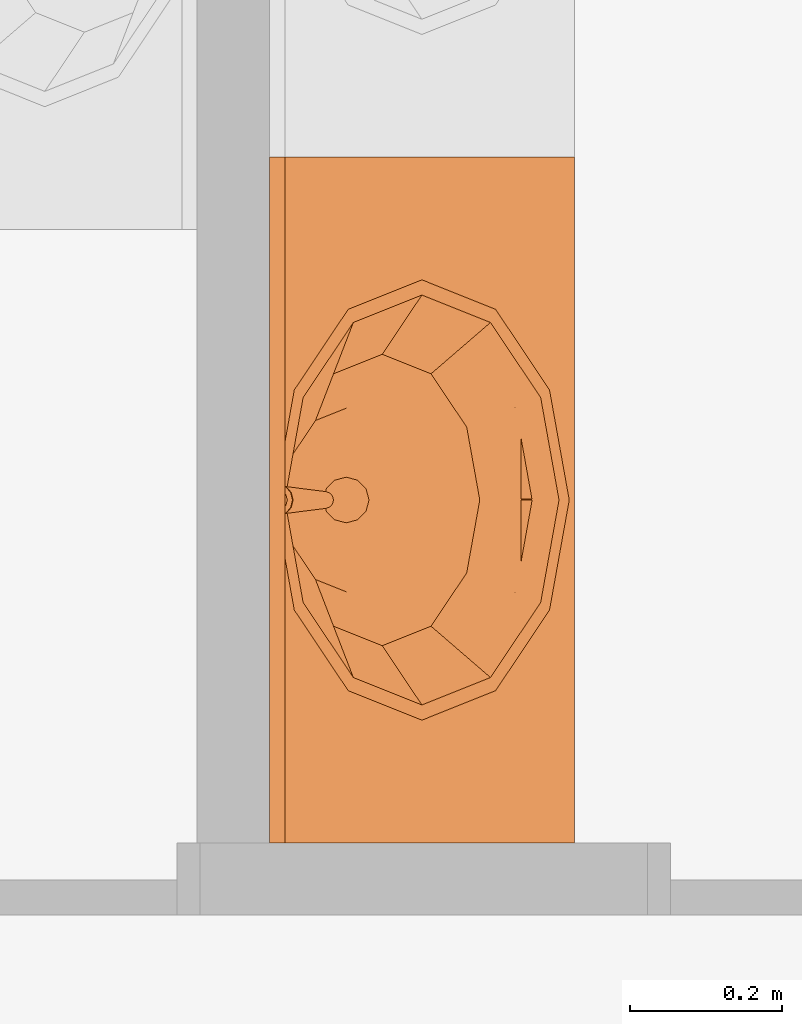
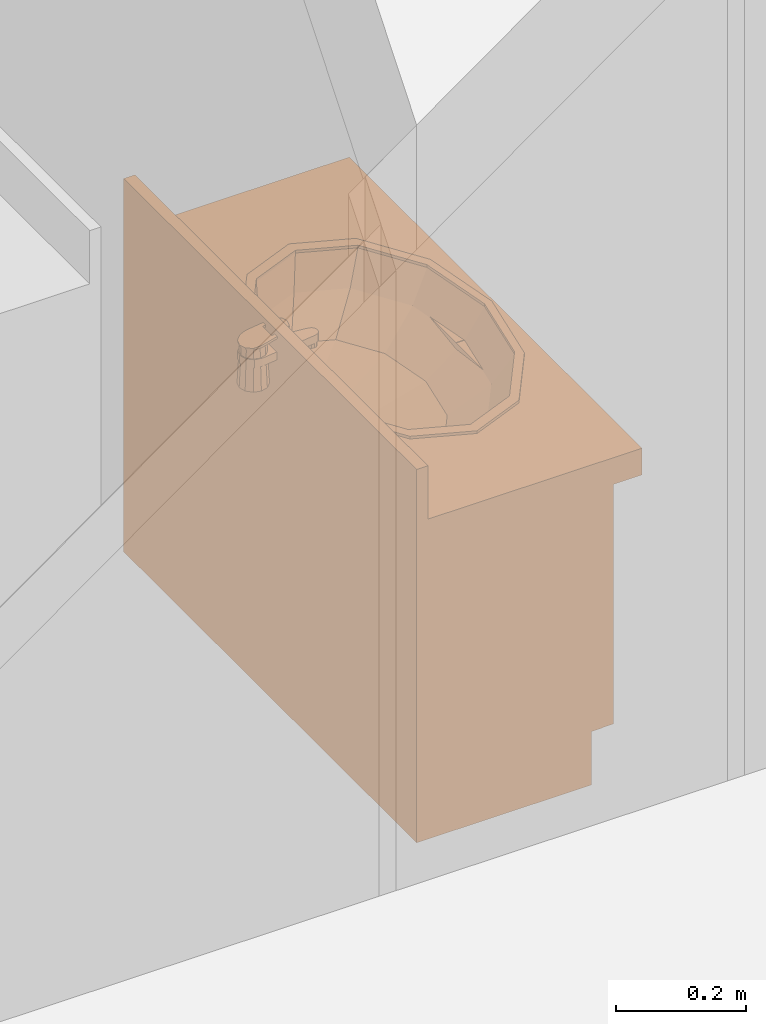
# One storey, part 14 of 17: 1 proxy.
"""IFC2X3 building model written with IfcOpenShell, lengths in millimetres."""

from ifc_helpers import new_model, entity, si_unit, converted_unit, direction, frame, origin_with_axes, place, context, project, spatial, open_shell, faceted_brep, surface_model, material, element, save


model = new_model("IFC2X3")

# Units and contexts
model_context = context("Model", 3, precision=1e-05, world=origin_with_axes(), true_north=direction((0.0, 1.0)))
ifc_project = project(units=[si_unit("LENGTHUNIT", "METRE", prefix="MILLI"), si_unit("AREAUNIT", "SQUARE_METRE"), si_unit("VOLUMEUNIT", "CUBIC_METRE"), converted_unit("PLANEANGLEUNIT", "DEGREE", entity("IfcPlaneAngleMeasure", 0.017453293), si_unit("PLANEANGLEUNIT", "RADIAN"), dimensions=[0, 0, 0, 0, 0, 0, 0]), si_unit("SOLIDANGLEUNIT", "STERADIAN"), si_unit("MASSUNIT", "GRAM"), si_unit("TIMEUNIT", "SECOND"), si_unit("THERMODYNAMICTEMPERATUREUNIT", "DEGREE_CELSIUS"), si_unit("LUMINOUSINTENSITYUNIT", "LUMEN")], contexts=[model_context])

# Site, building, storey
site_placement = place(None, origin_with_axes())
site = spatial("IfcSite", under=ifc_project, at=site_placement, Name="\x83T\x83C\x83g", CompositionType="ELEMENT")
building_placement = place(site_placement, origin_with_axes())
building = spatial("IfcBuilding", under=site, at=building_placement, Name="Daitec-Sample 201208", CompositionType="ELEMENT")
storey_placement = place(building_placement, origin_with_axes())
storey = spatial("IfcBuildingStorey", under=building, at=storey_placement, Name="1F", CompositionType="ELEMENT", Elevation=0.0)

# Proxy
ifc_material = material(Name="\x94w\x8ci")
proxy_placement = place(storey_placement, frame((21445.071, 21395.126, 0.0), z_axis=(0.0, 0.0, 1.0), x_axis=(0.0, 1.0, 0.0)))
element("IfcBuildingElementProxy", 1, at=proxy_placement, inside=storey, material=ifc_material, Name="O2", context=model_context, shape_type="Brep", body=[
    faceted_brep([(0.0, 90.0, 0.0), (0.0, 90.0, 100.0), (-900.0, 90.0, 100.0), (-900.0, 90.0, 0.0), (0.0, 400.0, 0.0), (0.0, 400.0, 100.0), (-900.0, 400.0, 100.0), (-900.0, 400.0, 0.0)], [[[0, 1, 2, 3]], [[4, 5, 1, 0]], [[1, 5, 6, 2]], [[3, 2, 6, 7]], [[0, 3, 7, 4]], [[7, 6, 5, 4]]]),
    faceted_brep([(0.0, 70.0, 100.0), (0.0, 70.0, 120.0), (-20.0, 70.0, 120.0), (-20.0, 70.0, 100.0), (0.0, 400.0, 100.0), (0.0, 400.0, 120.0), (-20.0, 400.0, 120.0), (-880.0, 400.0, 120.0), (-900.0, 400.0, 120.0), (-900.0, 70.0, 120.0), (-880.0, 70.0, 120.0), (-880.0, 70.0, 100.0), (-900.0, 70.0, 100.0), (-900.0, 400.0, 100.0), (-880.0, 400.0, 100.0), (-20.0, 400.0, 100.0)], [[[0, 1, 2, 3]], [[4, 5, 1, 0]], [[1, 5, 6, 7, 8, 9, 10, 2]], [[3, 2, 10, 11]], [[0, 3, 11, 12, 13, 14, 15, 4]], [[15, 6, 5, 4]], [[14, 7, 6, 15]], [[13, 8, 7, 14]], [[12, 9, 8, 13]], [[11, 10, 9, 12]]]),
    faceted_brep([(0.0, 70.0, 120.0), (0.0, 70.0, 550.0), (-20.0, 70.0, 550.0), (-20.0, 70.0, 120.0), (0.0, 400.0, 120.0), (0.0, 400.0, 550.0), (-900.0, 400.0, 550.0), (-900.0, 70.0, 550.0), (-880.0, 70.0, 550.0), (-880.0, 380.0, 550.0), (-20.0, 380.0, 550.0), (-20.0, 380.0, 120.0), (-880.0, 380.0, 120.0), (-880.0, 70.0, 120.0), (-900.0, 70.0, 120.0), (-900.0, 400.0, 120.0)], [[[0, 1, 2, 3]], [[4, 5, 1, 0]], [[1, 5, 6, 7, 8, 9, 10, 2]], [[3, 2, 10, 11]], [[0, 3, 11, 12, 13, 14, 15, 4]], [[15, 6, 5, 4]], [[14, 7, 6, 15]], [[13, 8, 7, 14]], [[12, 9, 8, 13]], [[11, 10, 9, 12]]]),
    faceted_brep([(-880.0, 70.0, 223.33333), (-880.0, 70.0, 243.33333), (-880.0, 380.0, 243.33333), (-880.0, 380.0, 223.33333), (-20.0, 70.0, 223.33333), (-20.0, 70.0, 243.33333), (-20.0, 380.0, 243.33333), (-20.0, 380.0, 223.33333)], [[[0, 1, 2, 3]], [[4, 5, 1, 0]], [[1, 5, 6, 2]], [[3, 2, 6, 7]], [[0, 3, 7, 4]], [[7, 6, 5, 4]]]),
    faceted_brep([(-880.0, 70.0, 366.66667), (-880.0, 70.0, 386.66667), (-880.0, 380.0, 386.66667), (-880.0, 380.0, 366.66667), (-20.0, 70.0, 366.66667), (-20.0, 70.0, 386.66667), (-20.0, 380.0, 386.66667), (-20.0, 380.0, 366.66667)], [[[0, 1, 2, 3]], [[4, 5, 1, 0]], [[1, 5, 6, 2]], [[3, 2, 6, 7]], [[0, 3, 7, 4]], [[7, 6, 5, 4]]]),
    faceted_brep([(0.0, 400.0, 550.0), (0.0, 0.0, 550.0), (-900.0, 0.0, 550.0), (-900.0, 400.0, 550.0), (-683.82686, 110.0, 550.0), (-585.0, 44.115427, 550.0), (-450.0, 20.0, 550.0), (-315.0, 44.115427, 550.0), (-216.17314, 110.0, 550.0), (-180.0, 200.0, 550.0), (-216.17314, 290.0, 550.0), (-315.0, 355.88457, 550.0), (-450.0, 380.0, 550.0), (-585.0, 355.88457, 550.0), (-683.82686, 290.0, 550.0), (-720.0, 200.0, 550.0), (0.0, 400.0, 600.0), (0.0, 0.0, 600.0), (-900.0, 0.0, 600.0), (-900.0, 400.0, 600.0), (-683.82686, 110.0, 600.0), (-585.0, 44.115427, 600.0), (-450.0, 20.0, 600.0), (-315.0, 44.115427, 600.0), (-216.17314, 110.0, 600.0), (-180.0, 200.0, 600.0), (-216.17314, 290.0, 600.0), (-315.0, 355.88457, 600.0), (-450.0, 380.0, 600.0), (-585.0, 355.88457, 600.0), (-683.82686, 290.0, 600.0), (-720.0, 200.0, 600.0)], [[[0, 1, 2, 3], [4, 5, 6, 7, 8, 9, 10, 11, 12, 13, 14, 15]], [[1, 0, 16, 17]], [[2, 1, 17, 18]], [[3, 2, 18, 19]], [[0, 3, 19, 16]], [[20, 21, 5, 4]], [[21, 22, 6, 5]], [[22, 23, 7, 6]], [[23, 24, 8, 7]], [[24, 25, 9, 8]], [[25, 26, 10, 9]], [[26, 27, 11, 10]], [[27, 28, 12, 11]], [[28, 29, 13, 12]], [[29, 30, 14, 13]], [[30, 31, 15, 14]], [[31, 20, 4, 15]], [[18, 17, 16, 19], [24, 23, 22, 21, 20, 31, 30, 29, 28, 27, 26, 25]]]),
    faceted_brep([(0.0, 380.0, 600.0), (0.0, 380.0, 700.0), (-900.0, 380.0, 700.0), (-900.0, 380.0, 600.0), (0.0, 400.0, 600.0), (0.0, 400.0, 700.0), (-900.0, 400.0, 700.0), (-900.0, 400.0, 600.0)], [[[0, 1, 2, 3]], [[4, 5, 1, 0]], [[1, 5, 6, 2]], [[3, 2, 6, 7]], [[0, 3, 7, 4]], [[7, 6, 5, 4]]]),
    faceted_brep([(-739.0, 200.0, 605.0), (-700.28134, 296.69145, 605.0), (-700.28134, 296.69145, 600.0), (-739.0, 200.0, 600.0), (-700.28134, 103.30855, 605.0), (-594.5, 32.525496, 605.0), (-450.0, 6.6171004, 605.0), (-305.5, 32.525496, 605.0), (-199.71866, 103.30855, 605.0), (-161.0, 200.0, 605.0), (-199.71866, 296.69145, 605.0), (-305.5, 367.4745, 605.0), (-450.0, 393.3829, 605.0), (-594.5, 367.4745, 605.0), (-719.0, 200.0, 605.0), (-682.96083, 290.0, 605.0), (-584.5, 355.88457, 605.0), (-450.0, 380.0, 605.0), (-315.5, 355.88457, 605.0), (-217.03917, 290.0, 605.0), (-181.0, 200.0, 605.0), (-217.03917, 110.0, 605.0), (-315.5, 44.115427, 605.0), (-450.0, 20.0, 605.0), (-584.5, 44.115427, 605.0), (-682.96083, 110.0, 605.0), (-594.5, 367.4745, 600.0), (-450.0, 393.3829, 600.0), (-305.5, 367.4745, 600.0), (-199.71866, 296.69145, 600.0), (-161.0, 200.0, 600.0), (-199.71866, 103.30855, 600.0), (-305.5, 32.525496, 600.0), (-450.0, 6.6171004, 600.0), (-594.5, 32.525496, 600.0), (-700.28134, 103.30855, 600.0), (-719.0, 200.0, 600.0), (-682.96083, 110.0, 600.0), (-584.5, 44.115427, 600.0), (-450.0, 20.0, 600.0), (-315.5, 44.115427, 600.0), (-217.03917, 110.0, 600.0), (-181.0, 200.0, 600.0), (-217.03917, 290.0, 600.0), (-315.5, 355.88457, 600.0), (-450.0, 380.0, 600.0), (-584.5, 355.88457, 600.0), (-682.96083, 290.0, 600.0)], [[[0, 1, 2, 3]], [[0, 4, 5, 6, 7, 8, 9, 10, 11, 12, 13, 1], [14, 15, 16, 17, 18, 19, 20, 21, 22, 23, 24, 25]], [[1, 13, 26, 2]], [[3, 2, 26, 27, 28, 29, 30, 31, 32, 33, 34, 35], [36, 37, 38, 39, 40, 41, 42, 43, 44, 45, 46, 47]], [[4, 0, 3, 35]], [[5, 4, 35, 34]], [[6, 5, 34, 33]], [[7, 6, 33, 32]], [[8, 7, 32, 31]], [[9, 8, 31, 30]], [[10, 9, 30, 29]], [[11, 10, 29, 28]], [[12, 11, 28, 27]], [[13, 12, 27, 26]], [[15, 14, 36, 47]], [[16, 15, 47, 46]], [[17, 16, 46, 45]], [[18, 17, 45, 44]], [[19, 18, 44, 43]], [[20, 19, 43, 42]], [[21, 20, 42, 41]], [[22, 21, 41, 40]], [[23, 22, 40, 39]], [[24, 23, 39, 38]], [[25, 24, 38, 37]], [[14, 25, 37, 36]]]),
    surface_model("IfcShellBasedSurfaceModel", [(-450.0, 380.0, 600.0), (-584.5, 355.88457, 600.0), (-571.05, 358.29612, 548.0), (-450.0, 380.0, 548.0), (-682.96083, 290.0, 600.0), (-659.66475, 299.0, 548.0), (-315.5, 355.88457, 600.0), (-328.95, 358.29612, 548.0), (-719.0, 200.0, 600.0), (-692.1, 218.0, 548.0), (-217.03917, 290.0, 600.0), (-240.33525, 299.0, 548.0), (-682.96083, 110.0, 600.0), (-659.66475, 137.0, 548.0), (-181.0, 200.0, 600.0), (-207.9, 218.0, 548.0), (-584.5, 44.115427, 600.0), (-571.05, 77.703885, 548.0), (-217.03917, 110.0, 600.0), (-240.33525, 137.0, 548.0), (-450.0, 20.0, 600.0), (-450.0, 56.0, 548.0), (-315.5, 44.115427, 600.0), (-328.95, 77.703885, 548.0)], [open_shell([[[0, 1, 2, 3]], [[1, 4, 5, 2]], [[6, 0, 3, 7]], [[4, 8, 9, 5]], [[10, 6, 7, 11]], [[8, 12, 13, 9]], [[14, 10, 11, 15]], [[12, 16, 17, 13]], [[18, 14, 15, 19]], [[16, 20, 21, 17]], [[22, 18, 19, 23]], [[20, 22, 23, 21]]])]),
    surface_model("IfcShellBasedSurfaceModel", [(-450.0, 380.0, 548.0), (-571.05, 358.29612, 548.0), (-545.6295, 362.85393, 496.0), (-450.0, 380.0, 496.0), (-659.66475, 299.0, 548.0), (-615.63515, 316.01, 496.0), (-328.95, 358.29612, 548.0), (-354.3705, 362.85393, 496.0), (-692.1, 218.0, 548.0), (-641.259, 252.02, 496.0), (-240.33525, 299.0, 548.0), (-284.36485, 316.01, 496.0), (-659.66475, 137.0, 548.0), (-615.63515, 188.03, 496.0), (-207.9, 218.0, 548.0), (-258.741, 252.02, 496.0), (-571.05, 77.703885, 548.0), (-545.6295, 141.18607, 496.0), (-240.33525, 137.0, 548.0), (-284.36485, 188.03, 496.0), (-450.0, 56.0, 548.0), (-450.0, 124.04, 496.0), (-328.95, 77.703885, 548.0), (-354.3705, 141.18607, 496.0)], [open_shell([[[0, 1, 2, 3]], [[1, 4, 5, 2]], [[6, 0, 3, 7]], [[4, 8, 9, 5]], [[10, 6, 7, 11]], [[8, 12, 13, 9]], [[14, 10, 11, 15]], [[12, 16, 17, 13]], [[18, 14, 15, 19]], [[16, 20, 21, 17]], [[22, 18, 19, 23]], [[20, 22, 23, 21]]])]),
    surface_model("IfcShellBasedSurfaceModel", [(-450.0, 380.0, 496.0), (-545.6295, 362.85393, 496.0), (-510.24659, 369.19798, 470.0), (-450.0, 380.0, 470.0), (-615.63515, 316.01, 496.0), (-554.35015, 339.6863, 470.0), (-354.3705, 362.85393, 496.0), (-389.75341, 369.19798, 470.0), (-641.259, 252.02, 496.0), (-570.49317, 299.3726, 470.0), (-284.36485, 316.01, 496.0), (-345.64985, 339.6863, 470.0), (-615.63515, 188.03, 496.0), (-554.35015, 259.0589, 470.0), (-258.741, 252.02, 496.0), (-329.50683, 299.3726, 470.0), (-545.6295, 141.18607, 496.0), (-510.24659, 229.54722, 470.0), (-284.36485, 188.03, 496.0), (-345.64985, 259.0589, 470.0), (-450.0, 124.04, 496.0), (-450.0, 218.7452, 470.0), (-354.3705, 141.18607, 496.0), (-389.75341, 229.54722, 470.0)], [open_shell([[[0, 1, 2, 3]], [[1, 4, 5, 2]], [[6, 0, 3, 7]], [[4, 8, 9, 5]], [[10, 6, 7, 11]], [[8, 12, 13, 9]], [[14, 10, 11, 15]], [[12, 16, 17, 13]], [[18, 14, 15, 19]], [[16, 20, 21, 17]], [[22, 18, 19, 23]], [[20, 22, 23, 21]]])]),
    surface_model("IfcShellBasedSurfaceModel", [(-450.0, 380.0, 470.0), (-510.24659, 369.19798, 470.0), (-465.0, 325.35336, 463.0), (-475.98076, 314.3726, 463.0), (-450.0, 329.3726, 463.0), (-554.35015, 339.6863, 470.0), (-389.75341, 369.19798, 470.0), (-480.0, 299.3726, 463.0), (-435.0, 325.35336, 463.0), (-570.49317, 299.3726, 470.0), (-345.64985, 339.6863, 470.0), (-475.98076, 284.3726, 463.0), (-424.01924, 314.3726, 463.0), (-554.35015, 259.0589, 470.0), (-329.50683, 299.3726, 470.0), (-465.0, 273.39184, 463.0), (-420.0, 299.3726, 463.0), (-510.24659, 229.54722, 470.0), (-345.64985, 259.0589, 470.0), (-450.0, 269.3726, 463.0), (-424.01924, 284.3726, 463.0), (-450.0, 218.7452, 470.0), (-389.75341, 229.54722, 470.0), (-435.0, 273.39184, 463.0)], [open_shell([[[0, 1, 2]], [[1, 3, 2]], [[0, 2, 4]], [[1, 5, 3]], [[6, 0, 4]], [[5, 7, 3]], [[6, 4, 8]], [[5, 9, 7]], [[10, 6, 8]], [[9, 11, 7]], [[10, 8, 12]], [[9, 13, 11]], [[14, 10, 12]], [[13, 15, 11]], [[14, 12, 16]], [[13, 17, 15]], [[18, 14, 16]], [[17, 19, 15]], [[18, 16, 20]], [[17, 21, 19]], [[22, 18, 20]], [[21, 23, 19]], [[22, 20, 23]], [[21, 22, 23]]])]),
    surface_model("IfcShellBasedSurfaceModel", [(-480.0, 299.3726, 463.0), (-475.98076, 314.3726, 463.0), (-475.98076, 314.3726, 458.0), (-480.0, 299.3726, 458.0), (-465.0, 325.35336, 463.0), (-465.0, 325.35336, 458.0), (-450.0, 329.3726, 458.0), (-435.0, 325.35336, 458.0), (-424.01924, 314.3726, 458.0), (-420.0, 299.3726, 458.0), (-424.01924, 284.3726, 458.0), (-435.0, 273.39184, 458.0), (-450.0, 269.3726, 458.0), (-465.0, 273.39184, 458.0), (-475.98076, 284.3726, 458.0), (-475.98076, 284.3726, 463.0), (-450.0, 329.3726, 463.0), (-435.0, 325.35336, 463.0), (-424.01924, 314.3726, 463.0), (-420.0, 299.3726, 463.0), (-424.01924, 284.3726, 463.0), (-435.0, 273.39184, 463.0), (-450.0, 269.3726, 463.0), (-465.0, 273.39184, 463.0)], [open_shell([[[0, 1, 2, 3]], [[1, 4, 5, 2]], [[3, 2, 5, 6, 7, 8, 9, 10, 11, 12, 13, 14]], [[15, 0, 3, 14]], [[4, 16, 6, 5]], [[16, 17, 7, 6]], [[17, 18, 8, 7]], [[18, 19, 9, 8]], [[19, 20, 10, 9]], [[20, 21, 11, 10]], [[21, 22, 12, 11]], [[22, 23, 13, 12]], [[23, 15, 14, 13]]])]),
    faceted_brep([(-462.5, 451.65064, 600.0), (-460.58732, 448.33778, 676.50709), (-450.0, 451.20192, 675.96154), (-450.0, 455.0, 600.0), (-471.65064, 442.5, 600.0), (-468.27355, 440.55024, 677.99043), (-471.0, 430.0, 680.0), (-468.10034, 419.54976, 681.99052), (-460.41411, 411.96224, 683.43576), (-450.0, 409.19811, 683.96226), (-439.58589, 411.96224, 683.43576), (-431.89966, 419.54976, 681.99052), (-429.0, 430.0, 680.0), (-431.72645, 440.55024, 677.99043), (-439.41268, 448.33778, 676.50709), (-437.5, 451.65064, 600.0), (-428.34936, 442.5, 600.0), (-425.0, 430.0, 600.0), (-428.34936, 417.5, 600.0), (-437.5, 408.34936, 600.0), (-450.0, 405.0, 600.0), (-462.5, 408.34936, 600.0), (-471.65064, 417.5, 600.0), (-475.0, 430.0, 600.0)], [[[0, 1, 2, 3]], [[4, 5, 1, 0]], [[1, 5, 6, 7, 8, 9, 10, 11, 12, 13, 14, 2]], [[3, 2, 14, 15]], [[0, 3, 15, 16, 17, 18, 19, 20, 21, 22, 23, 4]], [[23, 6, 5, 4]], [[22, 7, 6, 23]], [[21, 8, 7, 22]], [[20, 9, 8, 21]], [[19, 10, 9, 20]], [[18, 11, 10, 19]], [[17, 12, 11, 18]], [[16, 13, 12, 17]], [[15, 14, 13, 16]]]),
    faceted_brep([(-459.0, 327.0, 635.0), (-459.0, 327.0, 645.0), (-457.79423, 331.5, 645.0), (-457.79423, 331.5, 635.0), (-457.79423, 322.5, 635.0), (-457.79423, 322.5, 645.0), (-454.5, 319.20577, 645.0), (-450.0, 318.0, 645.0), (-445.5, 319.20577, 645.0), (-442.20577, 322.5, 645.0), (-441.0, 327.0, 645.0), (-442.20577, 331.5, 645.0), (-445.5, 334.79423, 645.0), (-450.0, 336.0, 645.0), (-454.5, 334.79423, 645.0), (-454.5, 334.79423, 635.0), (-450.0, 336.0, 635.0), (-445.5, 334.79423, 635.0), (-442.20577, 331.5, 635.0), (-441.0, 327.0, 635.0), (-442.20577, 322.5, 635.0), (-445.5, 319.20577, 635.0), (-450.0, 318.0, 635.0), (-454.5, 319.20577, 635.0)], [[[0, 1, 2, 3]], [[4, 5, 1, 0]], [[1, 5, 6, 7, 8, 9, 10, 11, 12, 13, 14, 2]], [[3, 2, 14, 15]], [[0, 3, 15, 16, 17, 18, 19, 20, 21, 22, 23, 4]], [[23, 6, 5, 4]], [[22, 7, 6, 23]], [[21, 8, 7, 22]], [[20, 9, 8, 21]], [[19, 10, 9, 20]], [[18, 11, 10, 19]], [[17, 12, 11, 18]], [[16, 13, 12, 17]], [[15, 14, 13, 16]]]),
    faceted_brep([(-440.97112, 320.71681, 660.0), (-439.08801, 325.61163, 660.0), (-426.1946, 426.9501, 660.0), (-428.27219, 440.19321, 660.0), (-437.12828, 450.2563, 660.0), (-450.0, 453.99998, 660.0), (-462.87172, 450.2563, 660.0), (-471.72781, 440.1932, 660.0), (-473.8054, 426.9501, 660.0), (-460.912, 325.6117, 660.0), (-459.02892, 320.71687, 660.0), (-455.09339, 317.25031, 660.0), (-450.00004, 316.00004, 660.0), (-444.90668, 317.25027, 660.0), (-430.94744, 419.0, 660.0), (-439.0, 410.94744, 660.0), (-450.0, 408.0, 660.0), (-461.0, 410.94744, 660.0), (-469.05256, 419.0, 660.0), (-472.0, 430.0, 660.0), (-469.05256, 441.0, 660.0), (-461.0, 449.05256, 660.0), (-450.0, 452.0, 660.0), (-439.0, 449.05256, 660.0), (-430.94744, 441.0, 660.0), (-428.0, 430.0, 660.0), (-440.97112, 320.71681, 645.0), (-439.08801, 325.61163, 645.0), (-426.1946, 426.9501, 645.0), (-428.27219, 440.19321, 645.0), (-437.12828, 450.2563, 645.0), (-450.0, 453.99998, 645.0), (-462.87172, 450.2563, 645.0), (-471.72781, 440.1932, 645.0), (-473.8054, 426.9501, 645.0), (-460.912, 325.6117, 645.0), (-459.02892, 320.71687, 645.0), (-455.09339, 317.25031, 645.0), (-450.00004, 316.00004, 645.0), (-444.90668, 317.25027, 645.0), (-430.29792, 418.625, 645.0), (-438.625, 410.29792, 645.0), (-450.0, 407.25, 645.0), (-461.375, 410.29792, 645.0), (-469.70208, 418.625, 645.0), (-472.75, 430.0, 645.0), (-469.70208, 441.375, 645.0), (-461.375, 449.70208, 645.0), (-450.0, 452.75, 645.0), (-438.625, 449.70208, 645.0), (-430.29792, 441.375, 645.0), (-427.25, 430.0, 645.0)], [[[0, 1, 2, 3, 4, 5, 6, 7, 8, 9, 10, 11, 12, 13], [14, 15, 16, 17, 18, 19, 20, 21, 22, 23, 24, 25]], [[26, 27, 1, 0]], [[27, 28, 2, 1]], [[28, 29, 3, 2]], [[29, 30, 4, 3]], [[30, 31, 5, 4]], [[31, 32, 6, 5]], [[32, 33, 7, 6]], [[33, 34, 8, 7]], [[34, 35, 9, 8]], [[35, 36, 10, 9]], [[36, 37, 11, 10]], [[37, 38, 12, 11]], [[38, 39, 13, 12]], [[39, 26, 0, 13]], [[40, 41, 15, 14]], [[41, 42, 16, 15]], [[42, 43, 17, 16]], [[43, 44, 18, 17]], [[44, 45, 19, 18]], [[20, 19, 45, 46]], [[21, 20, 46, 47]], [[22, 21, 47, 48]], [[23, 22, 48, 49]], [[24, 23, 49, 50]], [[50, 51, 25, 24]], [[51, 40, 14, 25]], [[28, 27, 26, 39, 38, 37, 36, 35, 34, 33, 32, 31, 30, 29], [44, 43, 42, 41, 40, 51, 50, 49, 48, 47, 46, 45]]]),
    faceted_brep([(-473.893, 428.30743, 680.32239), (-473.893, 429.05588, 684.25175), (-471.29642, 441.52317, 681.87703), (-471.29642, 440.77472, 677.94767), (-470.94594, 388.1633, 687.9689), (-470.94594, 388.91175, 691.89825), (-467.66314, 379.23408, 693.74161), (-460.06144, 372.2847, 695.06531), (-449.99956, 369.76284, 695.54566), (-439.93779, 372.28512, 695.06523), (-432.33638, 379.23481, 693.74148), (-429.054, 388.91261, 691.89808), (-426.10698, 429.05616, 684.2517), (-428.70371, 441.52342, 681.87698), (-437.52832, 450.83965, 680.10246), (-450.00014, 454.28041, 679.44708), (-462.47192, 450.8395, 680.10249), (-464.0, 405.20765, 688.79427), (-436.0, 405.20765, 688.79427), (-436.0, 390.39202, 691.61629), (-437.87564, 383.51565, 692.92608), (-443.0, 378.48179, 693.88491), (-450.0, 376.63928, 694.23586), (-457.0, 378.48179, 693.88491), (-462.12436, 383.51565, 692.92608), (-464.0, 390.39202, 691.61629), (-462.47192, 450.09105, 676.17313), (-450.00014, 453.53196, 675.51772), (-437.52832, 450.0912, 676.17311), (-428.70371, 440.77497, 677.94763), (-426.10698, 428.30771, 680.32234), (-429.054, 388.16417, 687.96873), (-432.33638, 378.48636, 689.81212), (-439.93779, 371.53667, 691.13587), (-449.99956, 369.01439, 691.61631), (-460.06144, 371.53625, 691.13595), (-467.66314, 378.48563, 689.81226), (-464.0, 404.4592, 684.86491), (-464.0, 389.64357, 687.68694), (-462.12436, 382.7672, 688.99672), (-457.0, 377.73334, 689.95555), (-450.0, 375.89083, 690.30651), (-443.0, 377.73334, 689.95555), (-437.87564, 382.7672, 688.99672), (-436.0, 389.64357, 687.68694), (-436.0, 404.4592, 684.86491)], [[[0, 1, 2, 3]], [[4, 5, 1, 0]], [[1, 5, 6, 7, 8, 9, 10, 11, 12, 13, 14, 15, 16, 2], [17, 18, 19, 20, 21, 22, 23, 24, 25]], [[3, 2, 16, 26]], [[0, 3, 26, 27, 28, 29, 30, 31, 32, 33, 34, 35, 36, 4], [37, 38, 39, 40, 41, 42, 43, 44, 45]], [[36, 6, 5, 4]], [[35, 7, 6, 36]], [[34, 8, 7, 35]], [[33, 9, 8, 34]], [[32, 10, 9, 33]], [[31, 11, 10, 32]], [[30, 12, 11, 31]], [[29, 13, 12, 30]], [[28, 14, 13, 29]], [[27, 15, 14, 28]], [[26, 16, 15, 27]], [[45, 18, 17, 37]], [[44, 19, 18, 45]], [[43, 20, 19, 44]], [[42, 21, 20, 43]], [[41, 22, 21, 42]], [[40, 23, 22, 41]], [[39, 24, 23, 40]], [[38, 25, 24, 39]], [[37, 17, 25, 38]]]),
    faceted_brep([(0.0, 70.0, 100.0), (0.0, 50.0, 100.0), (-449.0, 50.0, 100.0), (-449.0, 70.0, 100.0), (0.0, 70.0, 549.0), (0.0, 50.0, 549.0), (-449.0, 50.0, 549.0), (-449.0, 70.0, 549.0)], [[[0, 1, 2, 3]], [[4, 5, 1, 0]], [[1, 5, 6, 2]], [[3, 2, 6, 7]], [[0, 3, 7, 4]], [[7, 6, 5, 4]]]),
    faceted_brep([(-409.3923, 50.0, 484.0), (-411.0, 50.0, 490.0), (-409.3923, 50.0, 496.0), (-405.0, 50.0, 500.3923), (-399.0, 50.0, 502.0), (-393.0, 50.0, 500.3923), (-388.6077, 50.0, 496.0), (-387.0, 50.0, 490.0), (-388.6077, 50.0, 484.0), (-393.0, 50.0, 479.6077), (-399.0, 50.0, 478.0), (-405.0, 50.0, 479.6077), (-409.3923, 25.0, 484.0), (-411.0, 25.0, 490.0), (-409.3923, 25.0, 496.0), (-405.0, 25.0, 500.3923), (-399.0, 25.0, 502.0), (-393.0, 25.0, 500.3923), (-388.6077, 25.0, 496.0), (-387.0, 25.0, 490.0), (-388.6077, 25.0, 484.0), (-393.0, 25.0, 479.6077), (-399.0, 25.0, 478.0), (-405.0, 25.0, 479.6077)], [[[0, 1, 2, 3, 4, 5, 6, 7, 8, 9, 10, 11]], [[0, 12, 13, 1]], [[1, 13, 14, 2]], [[2, 14, 15, 3]], [[3, 15, 16, 4]], [[4, 16, 17, 5]], [[5, 17, 18, 6]], [[6, 18, 19, 7]], [[7, 19, 20, 8]], [[8, 20, 21, 9]], [[9, 21, 22, 10]], [[10, 22, 23, 11]], [[11, 23, 12, 0]], [[12, 23, 22, 21, 20, 19, 18, 17, 16, 15, 14, 13]]]),
    faceted_brep([(-899.0, 70.0, 100.0), (-450.0, 70.0, 100.0), (-450.0, 50.0, 100.0), (-899.0, 50.0, 100.0), (-899.0, 70.0, 549.0), (-450.0, 70.0, 549.0), (-450.0, 50.0, 549.0), (-899.0, 50.0, 549.0)], [[[0, 1, 2, 3]], [[0, 4, 5, 1]], [[1, 5, 6, 2]], [[3, 2, 6, 7]], [[4, 0, 3, 7]], [[5, 4, 7, 6]]]),
    faceted_brep([(-489.6077, 50.0, 484.0), (-494.0, 50.0, 479.6077), (-500.0, 50.0, 478.0), (-506.0, 50.0, 479.6077), (-510.3923, 50.0, 484.0), (-512.0, 50.0, 490.0), (-510.3923, 50.0, 496.0), (-506.0, 50.0, 500.3923), (-500.0, 50.0, 502.0), (-494.0, 50.0, 500.3923), (-489.6077, 50.0, 496.0), (-488.0, 50.0, 490.0), (-489.6077, 25.0, 484.0), (-494.0, 25.0, 479.6077), (-500.0, 25.0, 478.0), (-506.0, 25.0, 479.6077), (-510.3923, 25.0, 484.0), (-512.0, 25.0, 490.0), (-510.3923, 25.0, 496.0), (-506.0, 25.0, 500.3923), (-500.0, 25.0, 502.0), (-494.0, 25.0, 500.3923), (-489.6077, 25.0, 496.0), (-488.0, 25.0, 490.0)], [[[0, 1, 2, 3, 4, 5, 6, 7, 8, 9, 10, 11]], [[1, 0, 12, 13]], [[2, 1, 13, 14]], [[3, 2, 14, 15]], [[4, 3, 15, 16]], [[5, 4, 16, 17]], [[6, 5, 17, 18]], [[7, 6, 18, 19]], [[8, 7, 19, 20]], [[9, 8, 20, 21]], [[10, 9, 21, 22]], [[11, 10, 22, 23]], [[0, 11, 23, 12]], [[12, 23, 22, 21, 20, 19, 18, 17, 16, 15, 14, 13]]]),
])

save(model, "model.ifc")
